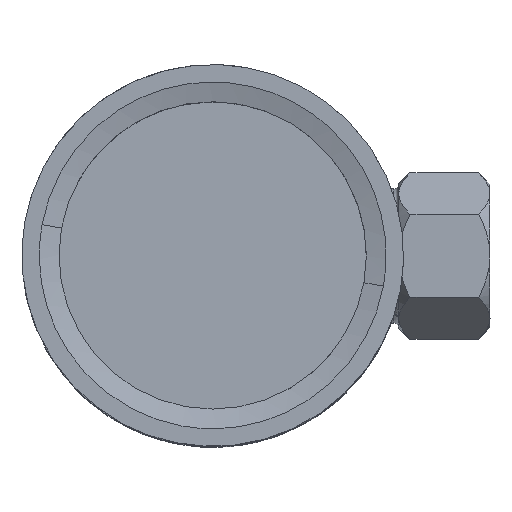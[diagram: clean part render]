
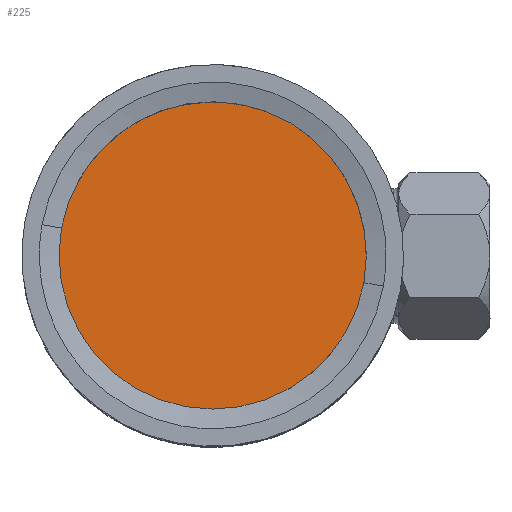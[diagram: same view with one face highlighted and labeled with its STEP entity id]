
A CAD part, top view. The second image highlights one B-rep face of the part: STEP entity #225.
In plain terms, the highlighted free-form (B-spline) face has degree [1, 1] with [2, 2] control points.
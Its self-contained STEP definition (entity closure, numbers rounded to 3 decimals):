
#225=ADVANCED_FACE('',(#455),#456,.T.);
#455=FACE_OUTER_BOUND('',#1485,.T.);
#456=B_SPLINE_SURFACE_WITH_KNOTS('',1,1,((#1486,#1487),(#1488,#1489)),.UNSPECIFIED.,.F.,.F.,.F.,(2,2),(2,2),(0.0,64.0),(0.0,64.0),.UNSPECIFIED.);
#1485=EDGE_LOOP('',(#2098,#2099,#2100));
#1486=CARTESIAN_POINT('',(-32.0,-32.0,27.));
#1487=CARTESIAN_POINT('',(-32.0,32.0,27.0));
#1488=CARTESIAN_POINT('',(32.0,-32.0,27.0));
#1489=CARTESIAN_POINT('',(32.0,32.0,27.0));
#2098=ORIENTED_EDGE('',*,*,#2429,.T.);
#2099=ORIENTED_EDGE('',*,*,#2232,.T.);
#2100=ORIENTED_EDGE('',*,*,#2430,.T.);
#2232=EDGE_CURVE('',#2552,#2556,#2558,.T.);
#2429=EDGE_CURVE('',#2837,#2552,#2838,.T.);
#2430=EDGE_CURVE('',#2556,#2837,#2839,.T.);
#2552=VERTEX_POINT('',#3496);
#2556=VERTEX_POINT('',#3501);
#2558=(B_SPLINE_CURVE(2,(#3505,#3506,#3507,#3508,#3509),.UNSPECIFIED.,.F.,.F.)B_SPLINE_CURVE_WITH_KNOTS((3,2,3),(-1.571,0.,1.571),.UNSPECIFIED.)RATIONAL_B_SPLINE_CURVE((1.0,0.707,1.0,0.707,1.0))BOUNDED_CURVE()REPRESENTATION_ITEM('')GEOMETRIC_REPRESENTATION_ITEM()CURVE());
#2837=VERTEX_POINT('',#4664);
#2838=(B_SPLINE_CURVE(2,(#4666,#4667,#4668),.UNSPECIFIED.,.F.,.F.)B_SPLINE_CURVE_WITH_KNOTS((3,3),(-3.142,-1.571),.UNSPECIFIED.)RATIONAL_B_SPLINE_CURVE((1.0,0.707,1.0))BOUNDED_CURVE()REPRESENTATION_ITEM('')GEOMETRIC_REPRESENTATION_ITEM()CURVE());
#2839=(B_SPLINE_CURVE(2,(#4676,#4677,#4678),.UNSPECIFIED.,.F.,.F.)B_SPLINE_CURVE_WITH_KNOTS((3,3),(1.571,3.142),.UNSPECIFIED.)RATIONAL_B_SPLINE_CURVE((1.0,0.707,1.0))BOUNDED_CURVE()REPRESENTATION_ITEM('')GEOMETRIC_REPRESENTATION_ITEM()CURVE());
#3496=CARTESIAN_POINT('',(31.493,-5.675,27.));
#3501=CARTESIAN_POINT('',(-31.493,5.675,27.));
#3505=CARTESIAN_POINT('',(31.493,-5.675,27.));
#3506=CARTESIAN_POINT('',(37.168,25.818,27.0));
#3507=CARTESIAN_POINT('',(5.675,31.493,27.));
#3508=CARTESIAN_POINT('',(-25.818,37.168,27.));
#3509=CARTESIAN_POINT('',(-31.493,5.675,27.));
#4664=CARTESIAN_POINT('',(-5.675,-31.493,27.));
#4666=CARTESIAN_POINT('',(-5.675,-31.493,27.));
#4667=CARTESIAN_POINT('',(25.818,-37.168,27.));
#4668=CARTESIAN_POINT('',(31.493,-5.675,27.));
#4676=CARTESIAN_POINT('',(-31.493,5.675,27.));
#4677=CARTESIAN_POINT('',(-37.168,-25.818,27.));
#4678=CARTESIAN_POINT('',(-5.675,-31.493,27.));
